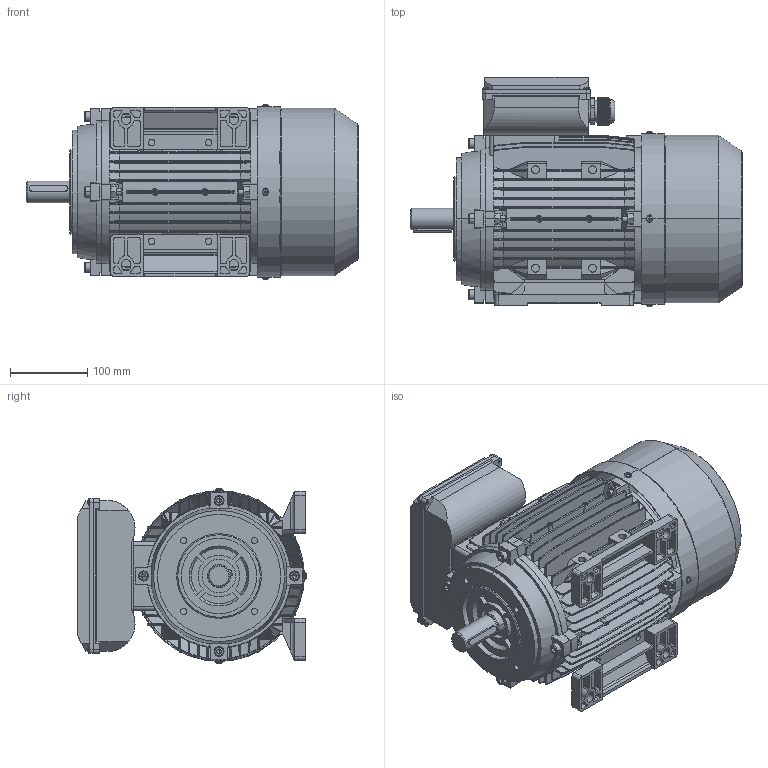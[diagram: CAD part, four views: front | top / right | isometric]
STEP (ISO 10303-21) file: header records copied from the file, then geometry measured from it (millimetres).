
FILE_DESCRIPTION (( 'STEP AP214' ), '1' );
FILE_NAME ('BDM0370.11E234.11.step', '2020-04-23T12:51:00', ( '' ), ( '' ), 'SwSTEP 2.0', 'SolidWorks 2019', '' );
FILE_SCHEMA (( 'AUTOMOTIVE_DESIGN' ));
Length unit declared in the file: millimetre
Products named in the file (1): BDM0370.11E234.11
Bounding box: 431 x 297.77 x 227.54 mm (x, y, z)
Volume: 2465890.7 mm3; surface area: 1381052.5 mm2
Topology: 35 solids, 35 shells, 4427 faces, 11615 edges, 7349 vertices
Faces by surface type: plane 2484, cylinder 1294, bspline 282, cone 228, torus 85, sphere 54
Entity records: 153053 total; most frequent: CARTESIAN_POINT 45916, ORIENTED_EDGE 23150, DIRECTION 20843, EDGE_CURVE 11575, VERTEX_POINT 7349, VECTOR 7235, LINE 7235, AXIS2_PLACEMENT_3D 6804
